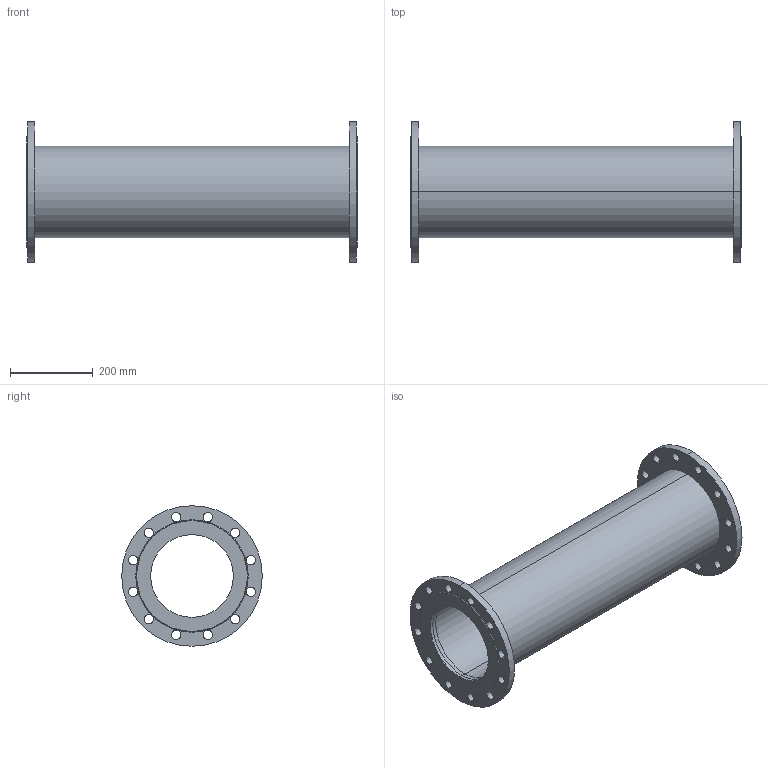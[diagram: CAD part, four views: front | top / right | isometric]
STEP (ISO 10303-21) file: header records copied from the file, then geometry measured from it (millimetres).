
FILE_DESCRIPTION(('STEP AP214'),'1');
FILE_NAME('S:/EK/USER/CAT6/3DHomepage_27-04-2012/VDI-Rohrsysteme_und_Stahlrohre/8500/8500_PN16_DN200_L800.STP','2013-01-21T14:43:06',(' '),(' '),'Spatial InterOp 3D',' ',' ');
FILE_SCHEMA(('automotive_design'));
Length unit declared in the file: millimetre
Products named in the file (5): 3D-Objekt
Bounding box: 800 x 340 x 340 mm (x, y, z)
Volume: 7764161.4 mm3; surface area: 1469540.8 mm2
Topology: 5 solids, 5 shells, 78 faces, 204 edges, 136 vertices
Faces by surface type: cylinder 64, plane 10, cone 4
Entity records: 3341 total; most frequent: DIRECTION 506, CARTESIAN_POINT 423, ORIENTED_EDGE 408, AXIS2_PLACEMENT_3D 219, EDGE_CURVE 204, EDGE_LOOP 136, VERTEX_POINT 136, CIRCLE 136
